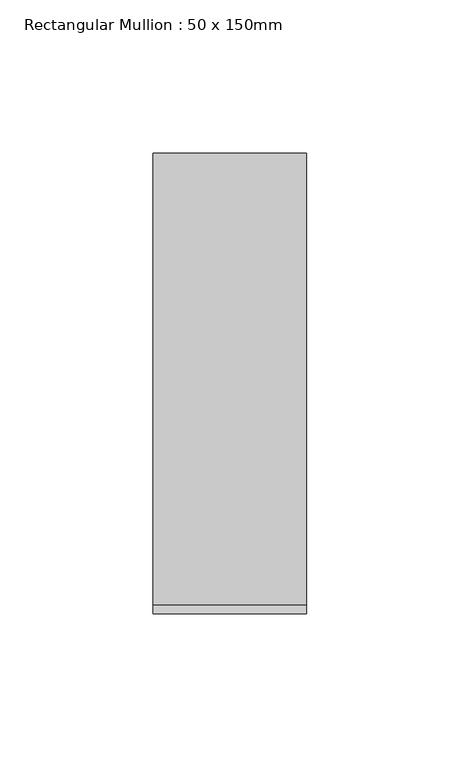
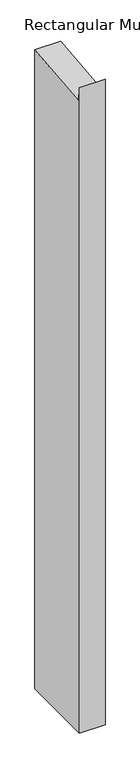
"""IFC4 building model written with IfcOpenShell, lengths in millimetres: member geometry, Rectangular Mullion : 50 x 150mm."""

from ifc_helpers import new_model, si_unit, frame, origin, place, context, project, spatial, polyline, outline, extrude, source, transform, mapped, element, save


def rectangular_mullion_50_x_150mm_e3e87f6c(model_context):
    return source(origin(), model_context, "Body", "SweptSolid", [
        extrude(outline(polyline([(-75.0, 21.1142895), (-72.0149057, -7.6167649), (75.0, 7.6577651), (75.0, -1307.3654496), (-75.0, -1307.3654496), (-75.0, 21.1142895)])), frame((-50.0, 0.0, 0.0), z_axis=(1.0, 0.0, 0.0), x_axis=(0.0, 1.0, 0.0)), (0.0, 0.0, 1.0), 50.0),
    ])


if __name__ == "__main__":
    model = new_model("IFC4")
    model_context = context("Model", 3, world=origin())
    ifc_project = project(units=[si_unit("LENGTHUNIT", "METRE", prefix="MILLI")], contexts=[model_context])
    site = spatial("IfcSite", under=ifc_project)
    building = spatial("IfcBuilding", under=site)
    placement = place(None, origin())
    rectangular_mullion_50_x_150mm_shape = rectangular_mullion_50_x_150mm_e3e87f6c(model_context)
    element("IfcMember", 1, ObjectType="Rectangular Mullion : 50 x 150mm", at=placement, inside=building, context=model_context, shape_type="MappedRepresentation", body=[
        mapped(rectangular_mullion_50_x_150mm_shape, transform((0.0, 0.0, 0.0), x_axis=(1.0, 0.0, 0.0), y_axis=(0.0, 1.0, 0.0), z_axis=(0.0, 0.0, 1.0))),
    ])
    save(model, "model.ifc")
